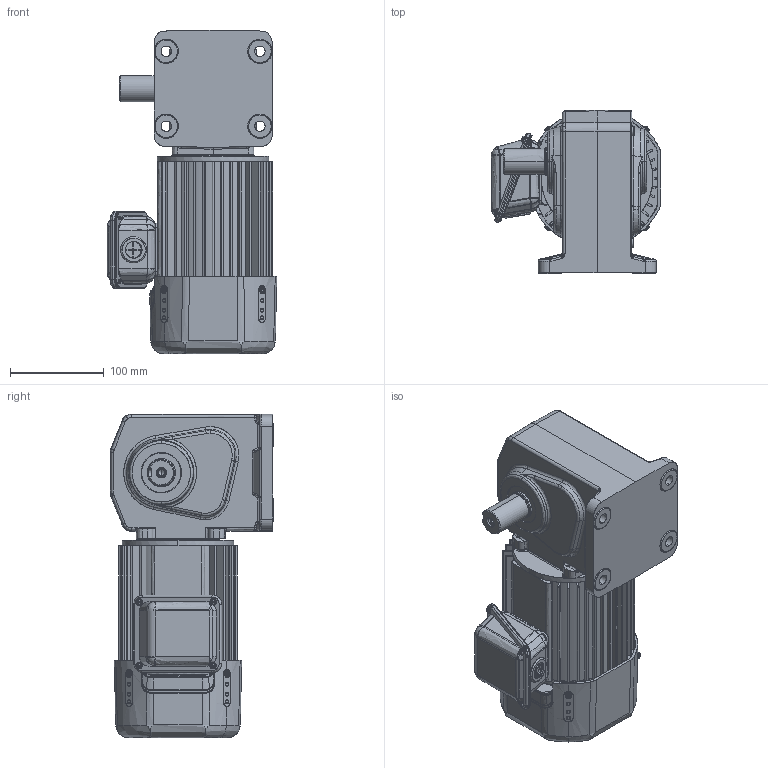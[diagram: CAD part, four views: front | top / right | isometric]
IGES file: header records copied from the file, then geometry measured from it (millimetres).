
Start section: SolidWorks IGES file using analytic representation for surfaces
Global section: file name: \\100.100.100.8\1_共有作業フォルダ\1-5_３Ｄデータ\solidworks\personal-folder\H.Nagayama\HL外形\HL(3D)\igs\TMHLB-04-(5~60)A.IGS; native system: SolidWorks 2018; preprocessor: SolidWorks 2018; author: sigma-giken; date: 200324.151506; units: millimetre
Bounding box: 181 x 174.5 x 345.5 mm (x, y, z)
Surface area: 482623.2 mm2 (no closed solid volume)
Topology: 0 solids, 0 shells, 1948 faces, 25596 edges, 25527 vertices
Faces by surface type: revolution 982, bspline 966
